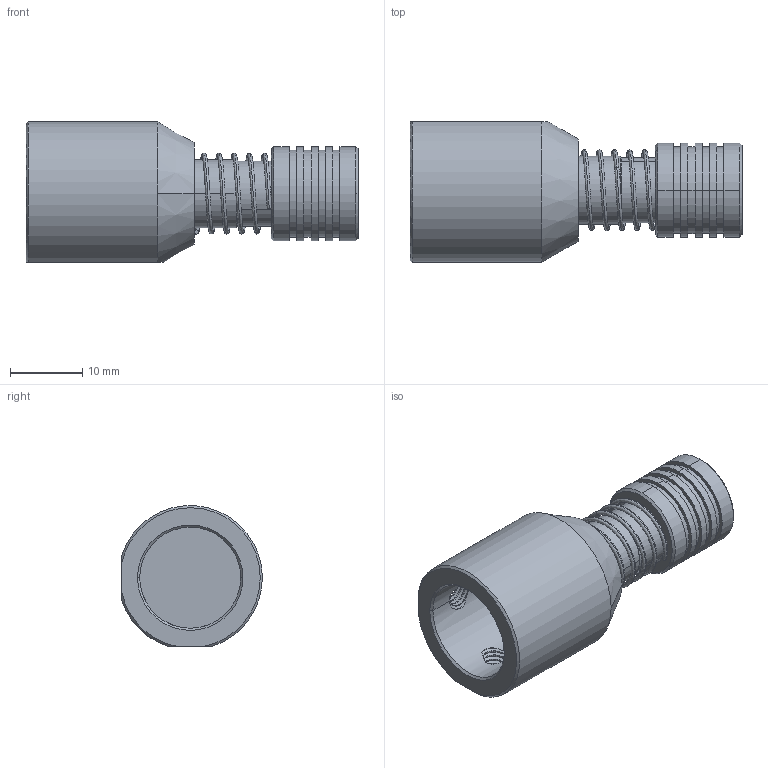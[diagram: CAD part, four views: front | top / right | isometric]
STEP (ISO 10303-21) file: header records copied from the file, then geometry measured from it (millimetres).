
FILE_DESCRIPTION((''),'2;1');
FILE_NAME('LG60-14-05-02','2025-12-26T15:51:59',('Admin'),(''),'CREO PARAMETRIC BY PTC INC, 2020074','CREO PARAMETRIC BY PTC INC, 2020074','');
FILE_SCHEMA(('CONFIG_CONTROL_DESIGN'));
Length unit declared in the file: millimetre
Products named in the file (1): LG60-14-05-02
Bounding box: 46 x 19.5 x 19.47 mm (x, y, z)
Volume: 5818.4 mm3; surface area: 5303.8 mm2
Topology: 4 solids, 4 shells, 213 faces, 622 edges, 422 vertices
Faces by surface type: cylinder 124, plane 35, cone 32, bspline 12, sphere 6, torus 4
Entity records: 11876 total; most frequent: CARTESIAN_POINT 6496, ORIENTED_EDGE 1228, DIRECTION 978, EDGE_CURVE 614, VERTEX_POINT 422, AXIS2_PLACEMENT_3D 404, B_SPLINE_CURVE_WITH_KNOTS 241, EDGE_LOOP 236
